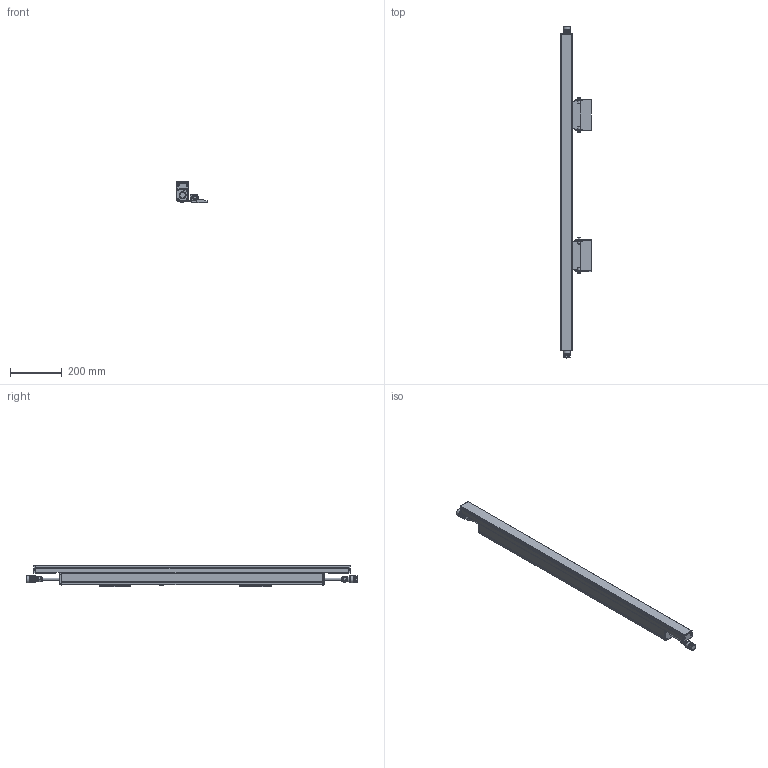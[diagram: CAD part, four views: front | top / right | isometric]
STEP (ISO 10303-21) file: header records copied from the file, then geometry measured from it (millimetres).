
FILE_DESCRIPTION(/* description */ ('Unknown'),/* implementation_level */ '2;1');
FILE_NAME(/* name */ 'ARCHILINE W 48',/* time_stamp */ '2023-01-24T04:03:28-05:00',/* author */ ('Unknown'),/* organization */ ('Unknown'),/* preprocessor_version */ 'ST-DEVELOPER v18.1',/* originating_system */ 'Solid Edge',/* authorisation */ 'Unknown');
FILE_SCHEMA (('AUTOMOTIVE_DESIGN {1 0 10303 214 3 1 1}'));
Products named in the file (1): ARCHILINE W 48
Bounding box: 118 x 1279.5 x 83.05 mm (x, y, z)
Volume: 3647607.7 mm3; surface area: 469363.5 mm2
Topology: 1 solids, 1 shells, 3738 faces, 9839 edges, 5842 vertices
Faces by surface type: cylinder 1485, plane 1153, bspline 544, sphere 296, torus 184, cone 76
Full cylindrical faces by diameter (mm): 2.9 x4, 4 x4, 6 x4, 6.5 x12, 7 x4, 8.13 x2, 8.6 x4, 10 x4, 12 x4, 16.5 x2, 17 x1, 18 x2, 19 x2, 26.7 x1, 27 x2, 27.2 x1
Entity records: 307934 total; most frequent: CARTESIAN_POINT 194397, ORIENTED_EDGE 18824, DIRECTION 18096, EDGE_CURVE 9412, AXIS2_PLACEMENT_3D 6943, VERTEX_POINT 5688, LINE 4210, VECTOR 4210
